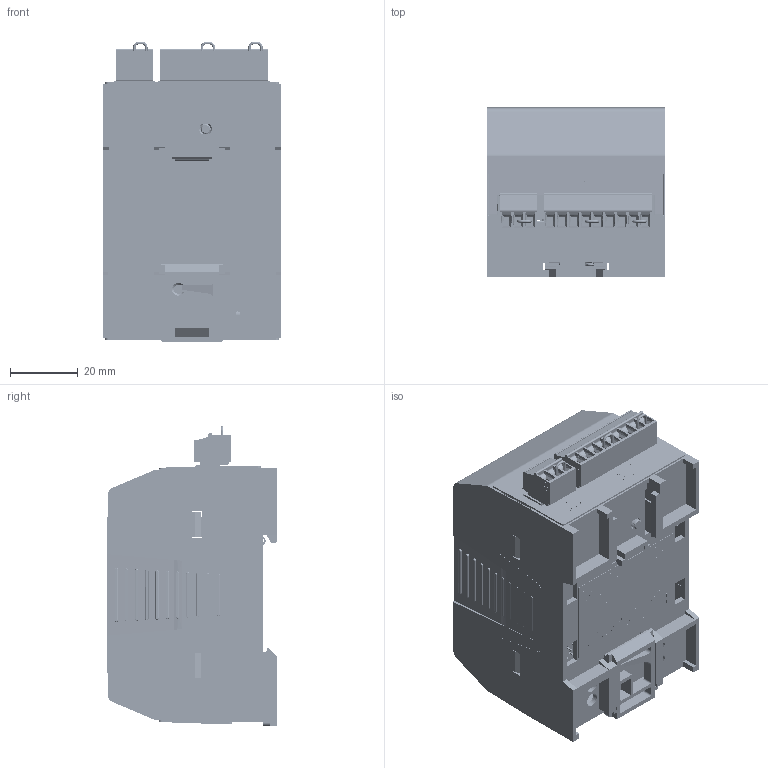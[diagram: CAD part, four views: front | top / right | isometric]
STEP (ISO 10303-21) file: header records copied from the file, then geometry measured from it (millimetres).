
FILE_DESCRIPTION (( 'STEP AP214' ), '1' );
FILE_NAME ('HI6200-WP-10-EIP-000.STEP', '2019-02-15T22:23:36', ( '' ), ( '' ), 'SwSTEP 2.0', 'SolidWorks 2017', '' );
FILE_SCHEMA (( 'AUTOMOTIVE_DESIGN' ));
Length unit declared in the file: millimetre
Products named in the file (24): 6026-0003-0_3.5mm Pitch x 5mm Long; Phoenix_EH_52.5_F-B_ABS_H.Select_1; 2140-0150-03-0; Molex_5019512410; 2140-0153-09-0; Tyco_c-1-6605752-1-d-3d; 2450-0039-0_24P Tail; Phoenix_MEBS-Snap-lock DIN Rail Clip; 0579-0031-01-0_REV B_Default<As Machined>; 0577-0149-01-0_REV A; 2140-0151-03-0; 1428-0028-0; 0530-0871-01-0_REV X1; 2817-0271-0_92005A112; HI6200-WP-10-EIP-000; 0517-0131-01-0_REV A; 0517-0133-01-0_REV A; 2450-0039-0; 0535-0582-XX-0_EIP; 0517-0132-01-0_REV A; 2140-0152-09-0; 0534-0582-01-0_Revision 10; 0505-0333-01-0_REV X2; 2140-0154-0
Assembly tree (28 placements, depth 3):
  HI6200-WP-10-EIP-000
    1428-0028-0
      Phoenix_EH_52.5_F-B_ABS_H.Select_1
      Phoenix_MEBS-Snap-lock DIN Rail Clip
    0505-0333-01-0_REV X2
    2817-0271-0_92005A112
    0577-0149-01-0_REV A
    2450-0039-0
    2450-0039-0_24P Tail
    0579-0031-01-0_REV B_Default<As Machined>
    0517-0131-01-0_REV A
    0517-0132-01-0_REV A
    2140-0151-03-0
    6026-0003-0_3.5mm Pitch x 5mm Long  x3
    2140-0153-09-0
    0517-0133-01-0_REV A
    0530-0871-01-0_REV X1
    0535-0582-XX-0_EIP
      0534-0582-01-0_Revision 10
      Tyco_c-1-6605752-1-d-3d
      Molex_5019512410
      2140-0150-03-0
      2140-0152-09-0
      2140-0154-0  x3
    2140-0154-0
Bounding box: 52.6 x 50.23 x 88.43 mm (x, y, z)
Volume: 58665.9 mm3; surface area: 97965.3 mm2
Topology: 102 solids, 103 shells, 9282 faces, 25107 edges, 16515 vertices
Faces by surface type: plane 5665, bspline 2201, cylinder 1334, cone 58, torus 22, sphere 2
Entity records: 399892 total; most frequent: CARTESIAN_POINT 114085, ORIENTED_EDGE 49408, DIRECTION 35527, EDGE_CURVE 24705, LINE 17139, VECTOR 17139, VERTEX_POINT 16263, EDGE_LOOP 9923
